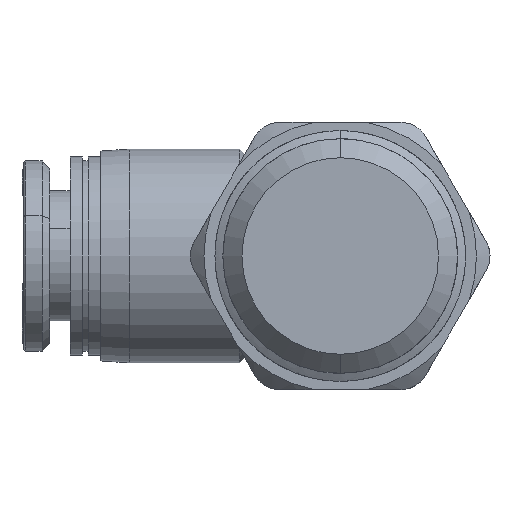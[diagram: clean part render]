
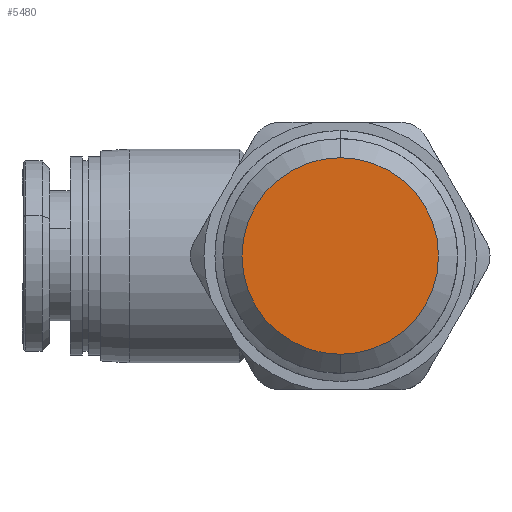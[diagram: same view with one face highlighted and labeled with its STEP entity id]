
A CAD part, front view. The second image highlights one B-rep face of the part: STEP entity #5480.
In plain terms, the highlighted planar face has unit normal (0, -1, 0).
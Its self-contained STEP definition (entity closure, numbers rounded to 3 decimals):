
#435 = DIRECTION ( 'NONE',  ( 0., 0., 1. ) ) ;
#462 = AXIS2_PLACEMENT_3D ( 'NONE', #3567, #5756, #435 ) ;
#782 = DIRECTION ( 'NONE',  ( 0., 0., 1. ) ) ;
#955 = VERTEX_POINT ( 'NONE', #5797 ) ;
#981 = CARTESIAN_POINT ( 'NONE',  ( 11.06, -21.4, -5.151 ) ) ;
#1218 = PLANE ( 'NONE',  #462 ) ;
#1496 = CARTESIAN_POINT ( 'NONE',  ( 11.06, -21.4, 0. ) ) ;
#1841 = AXIS2_PLACEMENT_3D ( 'NONE', #3179, #7677, #782 ) ;
#2303 = CIRCLE ( 'NONE', #1841, 5.151 ) ;
#3179 = CARTESIAN_POINT ( 'NONE',  ( 11.06, -21.4, 0. ) ) ;
#3265 = CIRCLE ( 'NONE', #6399, 5.151 ) ;
#3567 = CARTESIAN_POINT ( 'NONE',  ( 16.21, -21.4, 0. ) ) ;
#5480 = ADVANCED_FACE ( 'NONE', ( #8837 ), #1218, .F. ) ;
#5718 = VERTEX_POINT ( 'NONE', #981 ) ;
#5756 = DIRECTION ( 'NONE',  ( 0., 1., 0. ) ) ;
#5797 = CARTESIAN_POINT ( 'NONE',  ( 11.06, -21.4, 5.151 ) ) ;
#6068 = ORIENTED_EDGE ( 'NONE', *, *, #7133, .F. ) ;
#6399 = AXIS2_PLACEMENT_3D ( 'NONE', #1496, #8302, #8221 ) ;
#7133 = EDGE_CURVE ( 'NONE', #955, #5718, #3265, .T. ) ;
#7677 = DIRECTION ( 'NONE',  ( 0., 1., 0. ) ) ;
#8195 = EDGE_LOOP ( 'NONE', ( #6068, #9519 ) ) ;
#8221 = DIRECTION ( 'NONE',  ( 0., 0., 1. ) ) ;
#8302 = DIRECTION ( 'NONE',  ( 0., 1., 0. ) ) ;
#8694 = EDGE_CURVE ( 'NONE', #5718, #955, #2303, .T. ) ;
#8837 = FACE_OUTER_BOUND ( 'NONE', #8195, .T. ) ;
#9519 = ORIENTED_EDGE ( 'NONE', *, *, #8694, .F. ) ;
